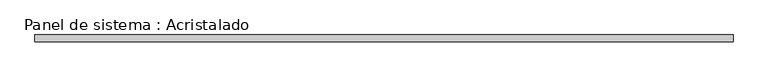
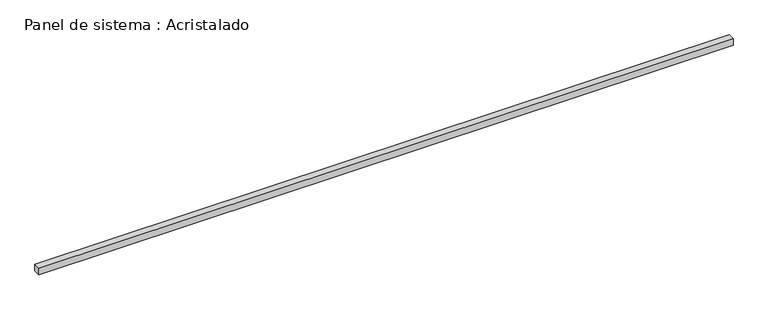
"""IFC4 building model written with IfcOpenShell, lengths in millimetres: plate geometry, Panel de sistema : Acristalado."""

from ifc_helpers import new_model, si_unit, origin, origin_with_axes, place, context, project, spatial, polyline, outline, extrude, source, transform, mapped, element, save


def panel_de_sistema_acristalado_a0303248(model_context):
    return source(origin(), model_context, "Body", "SweptSolid", [
        extrude(outline(polyline([(1025.0, -10.0), (-1025.0, -10.0), (-1025.0, 10.0), (1025.0, 10.0), (1025.0, -10.0)])), origin_with_axes(), (0.0, 0.0, 1.0), 20.0),
    ])


if __name__ == "__main__":
    model = new_model("IFC4")
    model_context = context("Model", 3, world=origin())
    ifc_project = project(units=[si_unit("LENGTHUNIT", "METRE", prefix="MILLI")], contexts=[model_context])
    site = spatial("IfcSite", under=ifc_project)
    building = spatial("IfcBuilding", under=site)
    placement = place(None, origin())
    panel_de_sistema_acristalado_shape = panel_de_sistema_acristalado_a0303248(model_context)
    element("IfcPlate", 1, ObjectType="Panel de sistema : Acristalado", at=placement, inside=building, context=model_context, shape_type="MappedRepresentation", body=[
        mapped(panel_de_sistema_acristalado_shape, transform((0.0, 0.0, 0.0), x_axis=(1.0, 0.0, 0.0), y_axis=(0.0, 1.0, 0.0), z_axis=(0.0, 0.0, 1.0))),
    ])
    save(model, "model.ifc")
